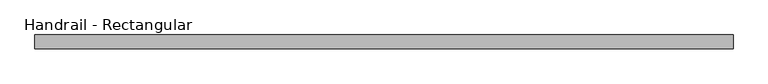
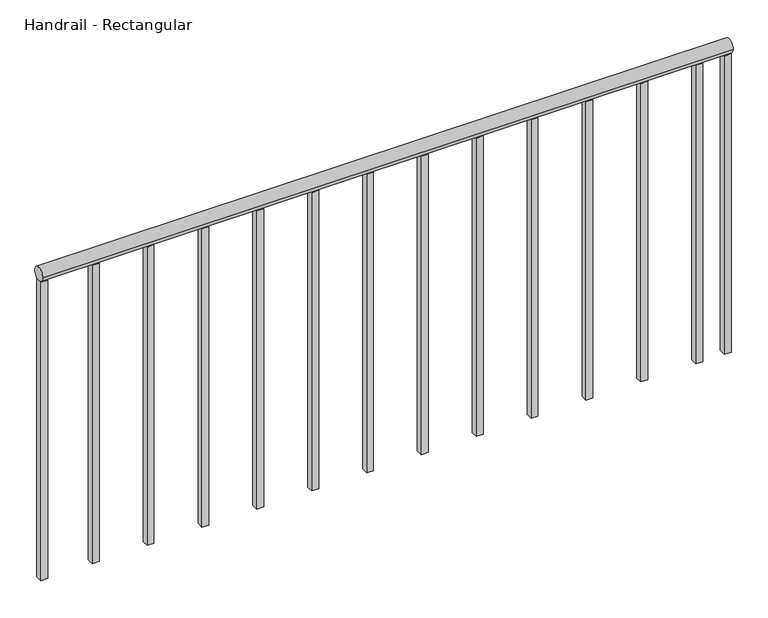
"""IFC4 building model written with IfcOpenShell, lengths in millimetres: railing geometry, Handrail - Rectangular."""

from ifc_helpers import new_model, si_unit, point, frame, frame_2d, origin, place, context, project, spatial, polyline, circle_curve, trimmed, segment, composite_curve, outline, extrude, source, transform, mapped, element, save


def handrail_rectangular_67155e74(model_context):
    return source(origin(), model_context, "Body", "SweptSolid", [
        extrude(outline(composite_curve([segment(trimmed(circle_curve(frame_2d((-30219.1683133, 10039.35)), 19.05), [point((-30238.2183133, 10039.35))], [point((-30200.1183133, 10039.35))], False, "CARTESIAN"), True, "CONTINUOUS"), segment(trimmed(circle_curve(frame_2d((-30219.1683133, 10039.35)), 19.05), [point((-30200.1183133, 10039.35))], [point((-30238.2183133, 10039.35))], False, "CARTESIAN"), True, "CONTINUOUS")], self_intersect=False)), frame((-15124.0839563, 0.0, 0.0), z_axis=(1.0, 0.0, 0.0), x_axis=(0.0, 1.0, 0.0)), (0.0, 0.0, 1.0), 1917.7),
        extrude(outline(polyline([(-13304.8089563, -30209.6433133), (-13285.7589563, -30209.6433133), (-13285.7589563, -30228.6933133), (-13304.8089563, -30228.6933133), (-13304.8089563, -30209.6433133)])), frame((0.0, 0.0, 9144.0), z_axis=(0.0, 0.0, 1.0), x_axis=(1.0, 0.0, 0.0)), (0.0, 0.0, 1.0), 876.3),
        extrude(outline(polyline([(-13457.2089563, -30209.6433133), (-13438.1589563, -30209.6433133), (-13438.1589563, -30228.6933133), (-13457.2089563, -30228.6933133), (-13457.2089563, -30209.6433133)])), frame((0.0, 0.0, 9144.0), z_axis=(0.0, 0.0, 1.0), x_axis=(1.0, 0.0, 0.0)), (0.0, 0.0, 1.0), 876.3),
        extrude(outline(polyline([(-13609.6089563, -30209.6433133), (-13590.5589563, -30209.6433133), (-13590.5589563, -30228.6933133), (-13609.6089563, -30228.6933133), (-13609.6089563, -30209.6433133)])), frame((0.0, 0.0, 9144.0), z_axis=(0.0, 0.0, 1.0), x_axis=(1.0, 0.0, 0.0)), (0.0, 0.0, 1.0), 876.3),
        extrude(outline(polyline([(-13762.0089563, -30209.6433133), (-13742.9589563, -30209.6433133), (-13742.9589563, -30228.6933133), (-13762.0089563, -30228.6933133), (-13762.0089563, -30209.6433133)])), frame((0.0, 0.0, 9144.0), z_axis=(0.0, 0.0, 1.0), x_axis=(1.0, 0.0, 0.0)), (0.0, 0.0, 1.0), 876.3),
        extrude(outline(polyline([(-13914.4089563, -30209.6433133), (-13895.3589563, -30209.6433133), (-13895.3589563, -30228.6933133), (-13914.4089563, -30228.6933133), (-13914.4089563, -30209.6433133)])), frame((0.0, 0.0, 9144.0), z_axis=(0.0, 0.0, 1.0), x_axis=(1.0, 0.0, 0.0)), (0.0, 0.0, 1.0), 876.3),
        extrude(outline(polyline([(-14066.8089563, -30209.6433133), (-14047.7589563, -30209.6433133), (-14047.7589563, -30228.6933133), (-14066.8089563, -30228.6933133), (-14066.8089563, -30209.6433133)])), frame((0.0, 0.0, 9144.0), z_axis=(0.0, 0.0, 1.0), x_axis=(1.0, 0.0, 0.0)), (0.0, 0.0, 1.0), 876.3),
        extrude(outline(polyline([(-14219.2089563, -30209.6433133), (-14200.1589563, -30209.6433133), (-14200.1589563, -30228.6933133), (-14219.2089563, -30228.6933133), (-14219.2089563, -30209.6433133)])), frame((0.0, 0.0, 9144.0), z_axis=(0.0, 0.0, 1.0), x_axis=(1.0, 0.0, 0.0)), (0.0, 0.0, 1.0), 876.3),
        extrude(outline(polyline([(-14371.6089563, -30209.6433133), (-14352.5589563, -30209.6433133), (-14352.5589563, -30228.6933133), (-14371.6089563, -30228.6933133), (-14371.6089563, -30209.6433133)])), frame((0.0, 0.0, 9144.0), z_axis=(0.0, 0.0, 1.0), x_axis=(1.0, 0.0, 0.0)), (0.0, 0.0, 1.0), 876.3),
        extrude(outline(polyline([(-14524.0089563, -30209.6433133), (-14504.9589563, -30209.6433133), (-14504.9589563, -30228.6933133), (-14524.0089563, -30228.6933133), (-14524.0089563, -30209.6433133)])), frame((0.0, 0.0, 9144.0), z_axis=(0.0, 0.0, 1.0), x_axis=(1.0, 0.0, 0.0)), (0.0, 0.0, 1.0), 876.3),
        extrude(outline(polyline([(-14676.4089563, -30209.6433133), (-14657.3589563, -30209.6433133), (-14657.3589563, -30228.6933133), (-14676.4089563, -30228.6933133), (-14676.4089563, -30209.6433133)])), frame((0.0, 0.0, 9144.0), z_axis=(0.0, 0.0, 1.0), x_axis=(1.0, 0.0, 0.0)), (0.0, 0.0, 1.0), 876.3),
        extrude(outline(polyline([(-14828.8089563, -30209.6433133), (-14809.7589563, -30209.6433133), (-14809.7589563, -30228.6933133), (-14828.8089563, -30228.6933133), (-14828.8089563, -30209.6433133)])), frame((0.0, 0.0, 9144.0), z_axis=(0.0, 0.0, 1.0), x_axis=(1.0, 0.0, 0.0)), (0.0, 0.0, 1.0), 876.3),
        extrude(outline(polyline([(-14981.2089563, -30209.6433133), (-14962.1589563, -30209.6433133), (-14962.1589563, -30228.6933133), (-14981.2089563, -30228.6933133), (-14981.2089563, -30209.6433133)])), frame((0.0, 0.0, 9144.0), z_axis=(0.0, 0.0, 1.0), x_axis=(1.0, 0.0, 0.0)), (0.0, 0.0, 1.0), 876.3),
        extrude(outline(polyline([(-13225.4339563, -30209.6433133), (-13206.3839563, -30209.6433133), (-13206.3839563, -30228.6933133), (-13225.4339563, -30228.6933133), (-13225.4339563, -30209.6433133)])), frame((0.0, 0.0, 9144.0), z_axis=(0.0, 0.0, 1.0), x_axis=(1.0, 0.0, 0.0)), (0.0, 0.0, 1.0), 876.3),
        extrude(outline(polyline([(-15124.0839563, -30209.6433133), (-15105.0339563, -30209.6433133), (-15105.0339563, -30228.6933133), (-15124.0839563, -30228.6933133), (-15124.0839563, -30209.6433133)])), frame((0.0, 0.0, 9144.0), z_axis=(0.0, 0.0, 1.0), x_axis=(1.0, 0.0, 0.0)), (0.0, 0.0, 1.0), 876.3),
    ])


if __name__ == "__main__":
    model = new_model("IFC4")
    model_context = context("Model", 3, world=origin())
    ifc_project = project(units=[si_unit("LENGTHUNIT", "METRE", prefix="MILLI")], contexts=[model_context])
    site = spatial("IfcSite", under=ifc_project)
    building = spatial("IfcBuilding", under=site)
    placement = place(None, origin())
    handrail_rectangular_shape = handrail_rectangular_67155e74(model_context)
    element("IfcRailing", 1, ObjectType="Handrail - Rectangular", at=placement, inside=building, context=model_context, shape_type="MappedRepresentation", body=[
        mapped(handrail_rectangular_shape, transform((0.0, 0.0, 0.0), x_axis=(1.0, 0.0, 0.0), y_axis=(0.0, 1.0, 0.0), z_axis=(0.0, 0.0, 1.0))),
    ])
    save(model, "model.ifc")
